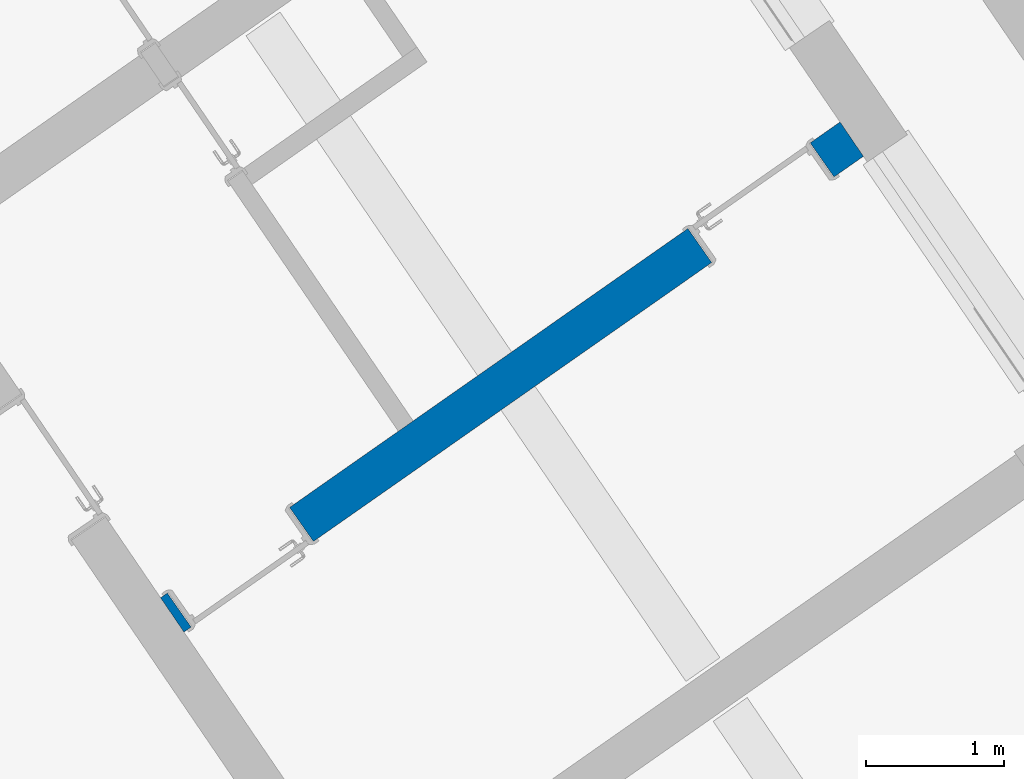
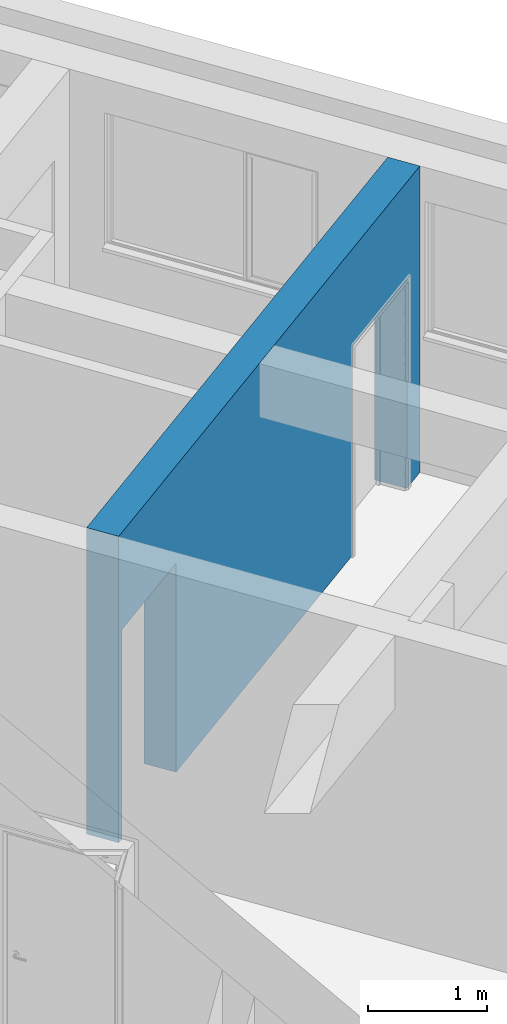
# One storey, part 53 of 112: 1 wall, 2 openings.
"""IFC2X3 building model written with IfcOpenShell, lengths in millimetres."""

from ifc_helpers import new_model, entity, si_unit, converted_unit, derived_unit, direction, frame, frame_2d, origin, place, context, subcontext, project, spatial, polyline, rectangle, outline, extrude, material, layer, layer_set, layer_usage, type_object, element, save


model = new_model("IFC2X3")

# Units and contexts
model_context = context("Model", 3, precision=0.01, world=origin(), true_north=direction((6.123031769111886e-17, 1.0)))
body_context = subcontext(model_context, "Body", "Model", "MODEL_VIEW")
ifc_project = project(units=[si_unit("LENGTHUNIT", "METRE", prefix="MILLI"), si_unit("AREAUNIT", "SQUARE_METRE"), si_unit("VOLUMEUNIT", "CUBIC_METRE"), converted_unit("PLANEANGLEUNIT", "DEGREE", entity("IfcRatioMeasure", 0.017453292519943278), si_unit("PLANEANGLEUNIT", "RADIAN"), dimensions=[0, 0, 0, 0, 0, 0, 0]), si_unit("MASSUNIT", "GRAM", prefix="KILO"), derived_unit("MASSDENSITYUNIT", [(si_unit("MASSUNIT", "GRAM", prefix="KILO"), 1), (si_unit("LENGTHUNIT", "METRE"), -3)]), derived_unit("MOMENTOFINERTIAUNIT", [(si_unit("LENGTHUNIT", "METRE"), 4)]), si_unit("TIMEUNIT", "SECOND"), si_unit("FREQUENCYUNIT", "HERTZ"), si_unit("THERMODYNAMICTEMPERATUREUNIT", "DEGREE_CELSIUS"), derived_unit("THERMALTRANSMITTANCEUNIT", [(si_unit("MASSUNIT", "GRAM", prefix="KILO"), 1), (si_unit("THERMODYNAMICTEMPERATUREUNIT", "KELVIN"), -1), (si_unit("TIMEUNIT", "SECOND"), -3)]), derived_unit("THERMALCONDUCTANCEUNIT", [(si_unit("MASSUNIT", "GRAM", prefix="KILO"), 1), (si_unit("LENGTHUNIT", "METRE"), 1), (si_unit("THERMODYNAMICTEMPERATUREUNIT", "KELVIN"), -1), (si_unit("TIMEUNIT", "SECOND"), -3)]), derived_unit("VOLUMETRICFLOWRATEUNIT", [(si_unit("LENGTHUNIT", "METRE"), 3), (si_unit("TIMEUNIT", "SECOND"), -1)]), derived_unit("MASSFLOWRATEUNIT", [(si_unit("MASSUNIT", "GRAM", prefix="KILO"), 1), (si_unit("TIMEUNIT", "SECOND"), -1)]), derived_unit("ROTATIONALFREQUENCYUNIT", [(si_unit("TIMEUNIT", "SECOND"), -1)]), si_unit("ELECTRICCURRENTUNIT", "AMPERE"), si_unit("ELECTRICVOLTAGEUNIT", "VOLT"), si_unit("POWERUNIT", "WATT"), converted_unit("FORCEUNIT", "KIP", entity("IfcRatioMeasure", 2.088543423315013e-05), si_unit("FORCEUNIT", "NEWTON"), dimensions=[1, 1, -2, 0, 0, 0, 0]), si_unit("ILLUMINANCEUNIT", "LUX"), si_unit("LUMINOUSFLUXUNIT", "LUMEN"), si_unit("LUMINOUSINTENSITYUNIT", "CANDELA"), derived_unit("USERDEFINED", [(si_unit("MASSUNIT", "GRAM", prefix="KILO"), -1), (si_unit("LENGTHUNIT", "METRE"), -2), (si_unit("TIMEUNIT", "SECOND"), 3), (si_unit("LUMINOUSFLUXUNIT", "LUMEN"), 1)]), derived_unit("USERDEFINED", [(si_unit("MASSUNIT", "GRAM", prefix="KILO"), 1), (si_unit("LENGTHUNIT", "METRE"), 3), (si_unit("TIMEUNIT", "SECOND"), -3), (si_unit("ELECTRICCURRENTUNIT", "AMPERE"), -2)]), derived_unit("USERDEFINED", [(si_unit("LENGTHUNIT", "METRE"), 2), (si_unit("TIMEUNIT", "SECOND"), -2)]), derived_unit("SOUNDPOWERUNIT", [(si_unit("MASSUNIT", "GRAM", prefix="KILO"), 1), (si_unit("LENGTHUNIT", "METRE"), 2), (si_unit("TIMEUNIT", "SECOND"), -3)]), derived_unit("SOUNDPRESSUREUNIT", [(si_unit("MASSUNIT", "GRAM", prefix="KILO"), 1), (si_unit("LENGTHUNIT", "METRE"), -1), (si_unit("TIMEUNIT", "SECOND"), -2)]), derived_unit("LINEARVELOCITYUNIT", [(si_unit("LENGTHUNIT", "METRE"), 1), (si_unit("TIMEUNIT", "SECOND"), -1)]), si_unit("PRESSUREUNIT", "PASCAL"), derived_unit("USERDEFINED", [(si_unit("LENGTHUNIT", "METRE"), -2), (si_unit("MASSUNIT", "GRAM", prefix="KILO"), 1), (si_unit("TIMEUNIT", "SECOND"), -2)]), derived_unit("LINEARFORCEUNIT", [(si_unit("MASSUNIT", "GRAM", prefix="KILO"), 1), (si_unit("LENGTHUNIT", "METRE"), 1), (si_unit("TIMEUNIT", "SECOND"), -2), (si_unit("LENGTHUNIT", "METRE"), -1)]), derived_unit("PLANARFORCEUNIT", [(si_unit("MASSUNIT", "GRAM", prefix="KILO"), 1), (si_unit("LENGTHUNIT", "METRE"), 1), (si_unit("TIMEUNIT", "SECOND"), -2), (si_unit("LENGTHUNIT", "METRE"), -2)]), derived_unit("SPECIFICHEATCAPACITYUNIT", [(si_unit("LENGTHUNIT", "METRE"), 2), (si_unit("TIMEUNIT", "SECOND"), -2), (si_unit("THERMODYNAMICTEMPERATUREUNIT", "KELVIN"), -1)]), derived_unit("VAPORPERMEABILITYUNIT", [(si_unit("TIMEUNIT", "SECOND"), 1), (si_unit("LENGTHUNIT", "METRE"), -1)]), derived_unit("DYNAMICVISCOSITYUNIT", [(si_unit("MASSUNIT", "GRAM", prefix="KILO"), 1), (si_unit("LENGTHUNIT", "METRE"), -1), (si_unit("TIMEUNIT", "SECOND"), -1)]), derived_unit("THERMALEXPANSIONCOEFFICIENTUNIT", [(si_unit("THERMODYNAMICTEMPERATUREUNIT", "KELVIN"), -1)])], contexts=[model_context])

# Site, building, storey
site_placement = place(None, frame((0.0, 0.0, 0.0), z_axis=(0.0, 0.0, 1.0), x_axis=(0.8191520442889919, 0.5735764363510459, 0.0)))
site = spatial("IfcSite", under=ifc_project, at=site_placement, Name="Default", CompositionType="ELEMENT")
building_placement = place(site_placement, origin())
building = spatial("IfcBuilding", under=site, at=building_placement, CompositionType="ELEMENT")
storey_placement = place(building_placement, frame((0.0, 0.0, -3600.0)))
storey = spatial("IfcBuildingStorey", under=building, at=storey_placement, Name="0.UG -3.60", CompositionType="ELEMENT", Elevation=-3600.0000000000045)

# Wall, openings
ifc_material = material(Name="Analytical Wall Surface_CJC")
ifc_layer = layer(ifc_material, 300.0)
ifc_layer_set = layer_set([ifc_layer], Name="Basic Wall:Wand_Innen_30")
ifc_layer_usage = layer_usage(ifc_layer_set, "AXIS2", "NEGATIVE", 150.0)
wall_type = type_object("IfcWallType", Name="Basic Wall:Wand_Innen_30", PredefinedType="STANDARD", material=ifc_layer_set)
wall_placement = place(storey_placement, frame((-205675.43824443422, 70096.35891435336, 300.0), z_axis=(0.0, 0.0, 1.0), x_axis=(-1.0, 0.0, 0.0)))
wall = element("IfcWallStandardCase", 1, at=wall_placement, inside=storey, type_object=wall_type, material=ifc_layer_usage, Name="Basic Wall:Wand_Innen_30", ObjectType="Basic Wall:Wand_Innen_30", context=body_context, shape_type="SweptSolid", body=[
    extrude(outline(polyline([(0.0, -150.0), (2900.220845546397, -150.0), (3200.245154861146, -150.0), (3770.2913425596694, -150.0), (3900.3018765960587, -150.0), (6000.472041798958, -150.0), (6004.291227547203, 150.0), (3204.0643406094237, 150.0), (2904.040031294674, 150.0), (3.819198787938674, 150.0), (0.0, -150.0)])), origin(), (0.0, 0.0, 1.0), 3150.000000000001),
])
opening_1_placement = place(wall_placement, frame((1343.8415052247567, 150.0, 0.0)))
element("IfcOpeningElement", 2, at=opening_1_placement, cuts=wall, Name="Doors_IntSgl:100x210:1", ObjectType="Opening", context=body_context, shape_type="SweptSolid", body=[
    extrude(rectangle(XDim=2150.000000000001, YDim=1079.9999999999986, at=frame_2d((1075.0000000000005, 539.9999999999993), x_axis=(1.0, 0.0))), frame((0.0, 0.0, 0.0), z_axis=(0.0, -1.0, 0.0), x_axis=(0.0, 0.0, 1.0)), (0.0, 0.0, 1.0), 300.0),
])
opening_2_placement = place(wall_placement, frame((4860.8415052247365, -150.0, 0.0)))
element("IfcOpeningElement", 3, at=opening_2_placement, cuts=wall, Name="Doors_IntSgl:100x210:1", ObjectType="Opening", context=body_context, shape_type="SweptSolid", body=[
    extrude(rectangle(XDim=2150.000000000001, YDim=1079.9999999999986, at=frame_2d((1075.0000000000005, 539.9999999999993), x_axis=(1.0, 0.0))), frame((0.0, 0.0, 0.0), z_axis=(0.0, 1.0, 0.0), x_axis=(0.0, 0.0, 1.0)), (0.0, 0.0, 1.0), 300.0),
])

save(model, "model.ifc")
